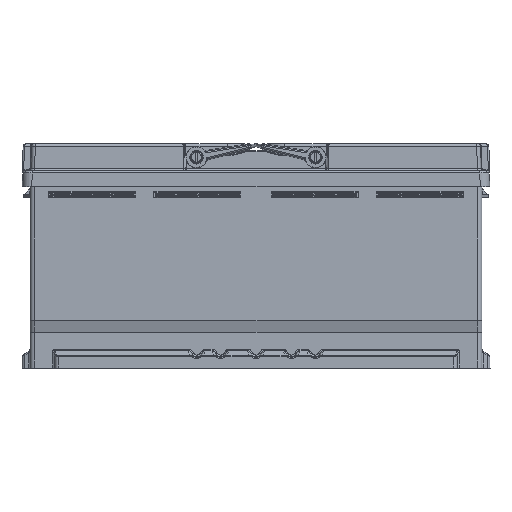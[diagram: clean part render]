
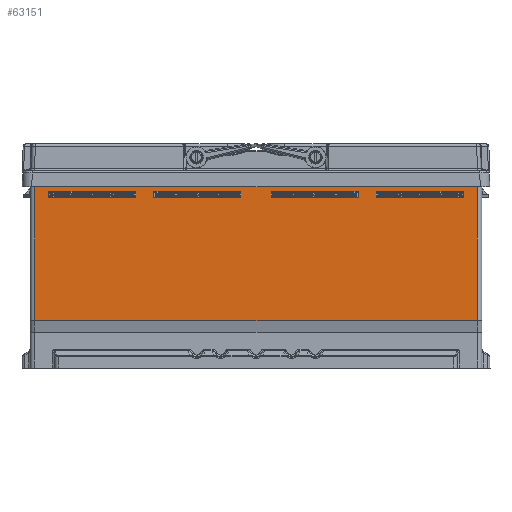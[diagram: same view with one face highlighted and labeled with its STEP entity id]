
A CAD part, left-side view. The second image highlights one B-rep face of the part: STEP entity #63151.
In plain terms, the highlighted planar face has unit normal (-1, 0, 0).
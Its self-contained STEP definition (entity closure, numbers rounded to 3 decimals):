
#51993=CARTESIAN_POINT('Vertex',(-83.05,-185.85,161.)) ;
#52035=CARTESIAN_POINT('Vertex',(-83.05,185.85,161.)) ;
#52038=CARTESIAN_POINT('Line Origine',(-83.05,0.,161.)) ;
#61064=CARTESIAN_POINT('Line Origine',(-83.05,-185.85,166.)) ;
#61068=CARTESIAN_POINT('Vertex',(-83.05,-185.85,40.)) ;
#62977=CARTESIAN_POINT('Line Origine',(-83.05,185.85,166.)) ;
#62981=CARTESIAN_POINT('Vertex',(-83.05,185.85,40.)) ;
#62999=CARTESIAN_POINT('Axis2P3D Location',(-83.05,-189.85,40.)) ;
#63004=CARTESIAN_POINT('Line Origine',(-83.05,0.,40.)) ;
#63015=CARTESIAN_POINT('Line Origine',(-83.05,137.65,143.)) ;
#63019=CARTESIAN_POINT('Vertex',(-83.05,174.15,143.)) ;
#63021=CARTESIAN_POINT('Vertex',(-83.05,101.15,143.)) ;
#63024=CARTESIAN_POINT('Line Origine',(-83.05,174.15,145.522)) ;
#63028=CARTESIAN_POINT('Vertex',(-83.05,174.15,148.044)) ;
#63031=CARTESIAN_POINT('Line Origine',(-83.05,137.65,148.044)) ;
#63035=CARTESIAN_POINT('Vertex',(-83.05,101.15,148.044)) ;
#63038=CARTESIAN_POINT('Line Origine',(-83.05,101.15,145.522)) ;
#63049=CARTESIAN_POINT('Line Origine',(-83.05,49.25,143.)) ;
#63053=CARTESIAN_POINT('Vertex',(-83.05,85.75,143.)) ;
#63055=CARTESIAN_POINT('Vertex',(-83.05,12.75,143.)) ;
#63058=CARTESIAN_POINT('Line Origine',(-83.05,85.75,145.522)) ;
#63062=CARTESIAN_POINT('Vertex',(-83.05,85.75,148.044)) ;
#63065=CARTESIAN_POINT('Line Origine',(-83.05,49.25,148.044)) ;
#63069=CARTESIAN_POINT('Vertex',(-83.05,12.75,148.044)) ;
#63072=CARTESIAN_POINT('Line Origine',(-83.05,12.75,145.522)) ;
#63083=CARTESIAN_POINT('Line Origine',(-83.05,-137.65,143.)) ;
#63087=CARTESIAN_POINT('Vertex',(-83.05,-174.15,143.)) ;
#63089=CARTESIAN_POINT('Vertex',(-83.05,-101.15,143.)) ;
#63092=CARTESIAN_POINT('Line Origine',(-83.05,-101.15,145.522)) ;
#63096=CARTESIAN_POINT('Vertex',(-83.05,-101.15,148.044)) ;
#63099=CARTESIAN_POINT('Line Origine',(-83.05,-137.65,148.044)) ;
#63103=CARTESIAN_POINT('Vertex',(-83.05,-174.15,148.044)) ;
#63106=CARTESIAN_POINT('Line Origine',(-83.05,-174.15,145.522)) ;
#63117=CARTESIAN_POINT('Line Origine',(-83.05,-49.25,143.)) ;
#63121=CARTESIAN_POINT('Vertex',(-83.05,-85.75,143.)) ;
#63123=CARTESIAN_POINT('Vertex',(-83.05,-12.75,143.)) ;
#63126=CARTESIAN_POINT('Line Origine',(-83.05,-12.75,145.522)) ;
#63130=CARTESIAN_POINT('Vertex',(-83.05,-12.75,148.044)) ;
#63133=CARTESIAN_POINT('Line Origine',(-83.05,-49.25,148.044)) ;
#63137=CARTESIAN_POINT('Vertex',(-83.05,-85.75,148.044)) ;
#63140=CARTESIAN_POINT('Line Origine',(-83.05,-85.75,145.522)) ;
#52039=DIRECTION('Vector Direction',(0.,-1.,0.)) ;
#61065=DIRECTION('Vector Direction',(0.,0.,1.)) ;
#62978=DIRECTION('Vector Direction',(0.,0.,1.)) ;
#63000=DIRECTION('Axis2P3D Direction',(1.,0.,0.)) ;
#63001=DIRECTION('Axis2P3D XDirection',(0.,1.,0.)) ;
#63005=DIRECTION('Vector Direction',(0.,1.,0.)) ;
#63016=DIRECTION('Vector Direction',(0.,-1.,0.)) ;
#63025=DIRECTION('Vector Direction',(0.,0.,-1.)) ;
#63032=DIRECTION('Vector Direction',(0.,1.,0.)) ;
#63039=DIRECTION('Vector Direction',(0.,0.,1.)) ;
#63050=DIRECTION('Vector Direction',(0.,-1.,0.)) ;
#63059=DIRECTION('Vector Direction',(0.,0.,-1.)) ;
#63066=DIRECTION('Vector Direction',(0.,1.,0.)) ;
#63073=DIRECTION('Vector Direction',(0.,0.,1.)) ;
#63084=DIRECTION('Vector Direction',(0.,1.,0.)) ;
#63093=DIRECTION('Vector Direction',(0.,0.,1.)) ;
#63100=DIRECTION('Vector Direction',(0.,-1.,0.)) ;
#63107=DIRECTION('Vector Direction',(0.,0.,-1.)) ;
#63118=DIRECTION('Vector Direction',(0.,1.,0.)) ;
#63127=DIRECTION('Vector Direction',(0.,0.,1.)) ;
#63134=DIRECTION('Vector Direction',(0.,-1.,0.)) ;
#63141=DIRECTION('Vector Direction',(0.,0.,-1.)) ;
#63002=AXIS2_PLACEMENT_3D('Plane Axis2P3D',#62999,#63000,#63001) ;
#63010=ORIENTED_EDGE('',*,*,#52042,.F.) ;
#63011=ORIENTED_EDGE('',*,*,#62983,.F.) ;
#63012=ORIENTED_EDGE('',*,*,#63008,.F.) ;
#63013=ORIENTED_EDGE('',*,*,#61070,.T.) ;
#63044=ORIENTED_EDGE('',*,*,#63023,.F.) ;
#63045=ORIENTED_EDGE('',*,*,#63030,.F.) ;
#63046=ORIENTED_EDGE('',*,*,#63037,.F.) ;
#63047=ORIENTED_EDGE('',*,*,#63042,.F.) ;
#63078=ORIENTED_EDGE('',*,*,#63057,.F.) ;
#63079=ORIENTED_EDGE('',*,*,#63064,.F.) ;
#63080=ORIENTED_EDGE('',*,*,#63071,.F.) ;
#63081=ORIENTED_EDGE('',*,*,#63076,.F.) ;
#63112=ORIENTED_EDGE('',*,*,#63091,.T.) ;
#63113=ORIENTED_EDGE('',*,*,#63098,.T.) ;
#63114=ORIENTED_EDGE('',*,*,#63105,.T.) ;
#63115=ORIENTED_EDGE('',*,*,#63110,.T.) ;
#63146=ORIENTED_EDGE('',*,*,#63125,.T.) ;
#63147=ORIENTED_EDGE('',*,*,#63132,.T.) ;
#63148=ORIENTED_EDGE('',*,*,#63139,.T.) ;
#63149=ORIENTED_EDGE('',*,*,#63144,.T.) ;
#63048=FACE_BOUND('',#63043,.T.) ;
#63082=FACE_BOUND('',#63077,.T.) ;
#63116=FACE_BOUND('',#63111,.T.) ;
#63150=FACE_BOUND('',#63145,.T.) ;
#52040=VECTOR('Line Direction',#52039,1.) ;
#61066=VECTOR('Line Direction',#61065,1.) ;
#62979=VECTOR('Line Direction',#62978,1.) ;
#63006=VECTOR('Line Direction',#63005,1.) ;
#63017=VECTOR('Line Direction',#63016,1.) ;
#63026=VECTOR('Line Direction',#63025,1.) ;
#63033=VECTOR('Line Direction',#63032,1.) ;
#63040=VECTOR('Line Direction',#63039,1.) ;
#63051=VECTOR('Line Direction',#63050,1.) ;
#63060=VECTOR('Line Direction',#63059,1.) ;
#63067=VECTOR('Line Direction',#63066,1.) ;
#63074=VECTOR('Line Direction',#63073,1.) ;
#63085=VECTOR('Line Direction',#63084,1.) ;
#63094=VECTOR('Line Direction',#63093,1.) ;
#63101=VECTOR('Line Direction',#63100,1.) ;
#63108=VECTOR('Line Direction',#63107,1.) ;
#63119=VECTOR('Line Direction',#63118,1.) ;
#63128=VECTOR('Line Direction',#63127,1.) ;
#63135=VECTOR('Line Direction',#63134,1.) ;
#63142=VECTOR('Line Direction',#63141,1.) ;
#63151=ADVANCED_FACE('AGM H9',(#63014,#63048,#63082,#63116,#63150),#63003,.F.) ;
#52042=EDGE_CURVE('',#52036,#51994,#52041,.T.) ;
#61070=EDGE_CURVE('',#61069,#51994,#61067,.T.) ;
#62983=EDGE_CURVE('',#62982,#52036,#62980,.T.) ;
#63008=EDGE_CURVE('',#61069,#62982,#63007,.T.) ;
#63023=EDGE_CURVE('',#63020,#63022,#63018,.T.) ;
#63030=EDGE_CURVE('',#63029,#63020,#63027,.T.) ;
#63037=EDGE_CURVE('',#63036,#63029,#63034,.T.) ;
#63042=EDGE_CURVE('',#63022,#63036,#63041,.T.) ;
#63057=EDGE_CURVE('',#63054,#63056,#63052,.T.) ;
#63064=EDGE_CURVE('',#63063,#63054,#63061,.T.) ;
#63071=EDGE_CURVE('',#63070,#63063,#63068,.T.) ;
#63076=EDGE_CURVE('',#63056,#63070,#63075,.T.) ;
#63091=EDGE_CURVE('',#63088,#63090,#63086,.T.) ;
#63098=EDGE_CURVE('',#63090,#63097,#63095,.T.) ;
#63105=EDGE_CURVE('',#63097,#63104,#63102,.T.) ;
#63110=EDGE_CURVE('',#63104,#63088,#63109,.T.) ;
#63125=EDGE_CURVE('',#63122,#63124,#63120,.T.) ;
#63132=EDGE_CURVE('',#63124,#63131,#63129,.T.) ;
#63139=EDGE_CURVE('',#63131,#63138,#63136,.T.) ;
#63144=EDGE_CURVE('',#63138,#63122,#63143,.T.) ;
#63009=EDGE_LOOP('',(#63010,#63011,#63012,#63013)) ;
#63043=EDGE_LOOP('',(#63044,#63045,#63046,#63047)) ;
#63077=EDGE_LOOP('',(#63078,#63079,#63080,#63081)) ;
#63111=EDGE_LOOP('',(#63112,#63113,#63114,#63115)) ;
#63145=EDGE_LOOP('',(#63146,#63147,#63148,#63149)) ;
#63014=FACE_OUTER_BOUND('',#63009,.T.) ;
#52041=LINE('Line',#52038,#52040) ;
#61067=LINE('Line',#61064,#61066) ;
#62980=LINE('Line',#62977,#62979) ;
#63007=LINE('Line',#63004,#63006) ;
#63018=LINE('Line',#63015,#63017) ;
#63027=LINE('Line',#63024,#63026) ;
#63034=LINE('Line',#63031,#63033) ;
#63041=LINE('Line',#63038,#63040) ;
#63052=LINE('Line',#63049,#63051) ;
#63061=LINE('Line',#63058,#63060) ;
#63068=LINE('Line',#63065,#63067) ;
#63075=LINE('Line',#63072,#63074) ;
#63086=LINE('Line',#63083,#63085) ;
#63095=LINE('Line',#63092,#63094) ;
#63102=LINE('Line',#63099,#63101) ;
#63109=LINE('Line',#63106,#63108) ;
#63120=LINE('Line',#63117,#63119) ;
#63129=LINE('Line',#63126,#63128) ;
#63136=LINE('Line',#63133,#63135) ;
#63143=LINE('Line',#63140,#63142) ;
#63003=PLANE('',#63002) ;
#51994=VERTEX_POINT('',#51993) ;
#52036=VERTEX_POINT('',#52035) ;
#61069=VERTEX_POINT('',#61068) ;
#62982=VERTEX_POINT('',#62981) ;
#63020=VERTEX_POINT('',#63019) ;
#63022=VERTEX_POINT('',#63021) ;
#63029=VERTEX_POINT('',#63028) ;
#63036=VERTEX_POINT('',#63035) ;
#63054=VERTEX_POINT('',#63053) ;
#63056=VERTEX_POINT('',#63055) ;
#63063=VERTEX_POINT('',#63062) ;
#63070=VERTEX_POINT('',#63069) ;
#63088=VERTEX_POINT('',#63087) ;
#63090=VERTEX_POINT('',#63089) ;
#63097=VERTEX_POINT('',#63096) ;
#63104=VERTEX_POINT('',#63103) ;
#63122=VERTEX_POINT('',#63121) ;
#63124=VERTEX_POINT('',#63123) ;
#63131=VERTEX_POINT('',#63130) ;
#63138=VERTEX_POINT('',#63137) ;
